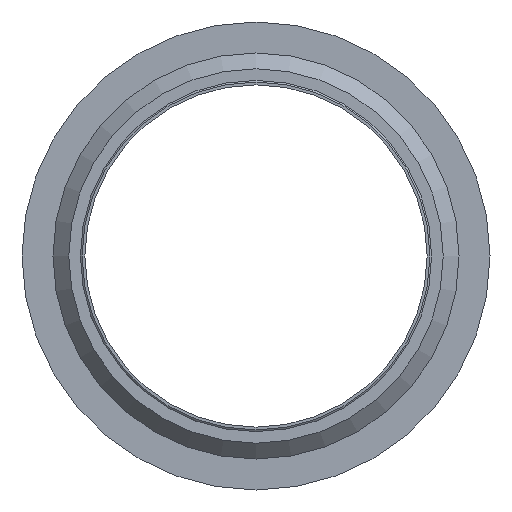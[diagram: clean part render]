
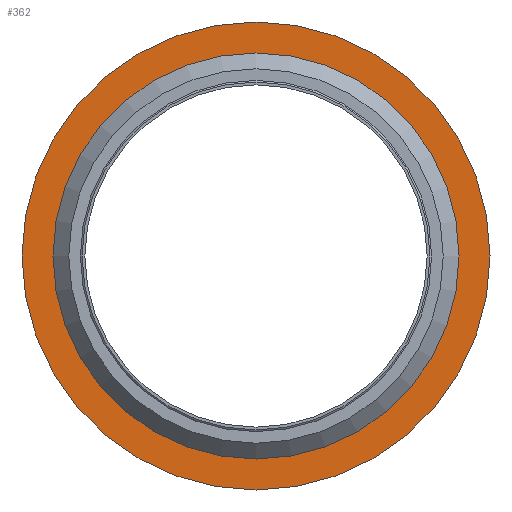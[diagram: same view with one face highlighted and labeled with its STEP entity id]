
A CAD part, left-side view. The second image highlights one B-rep face of the part: STEP entity #362.
In plain terms, the highlighted planar face has unit normal (-1, 0, 0).
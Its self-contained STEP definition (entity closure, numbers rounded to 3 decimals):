
#27=PLANE($,#419);
#51=FACE_BOUND($,#134,.T.);
#84=FACE_OUTER_BOUND($,#133,.T.);
#133=EDGE_LOOP($,(#298));
#134=EDGE_LOOP($,(#299));
#181=CIRCLE($,#418,108.45);
#182=CIRCLE($,#420,125.);
#214=VERTEX_POINT($,#637);
#215=VERTEX_POINT($,#640);
#247=EDGE_CURVE($,#214,#214,#181,.T.);
#248=EDGE_CURVE($,#215,#215,#182,.T.);
#298=ORIENTED_EDGE($,*,*,#248,.F.);
#299=ORIENTED_EDGE($,*,*,#247,.T.);
#362=ADVANCED_FACE($,(#84,#51),#27,.T.);
#418=AXIS2_PLACEMENT_3D($,#638,#522,#523);
#419=AXIS2_PLACEMENT_3D($,#639,#524,#525);
#420=AXIS2_PLACEMENT_3D($,#641,#526,#527);
#522=DIRECTION('center_axis',(1.,0.,0.));
#523=DIRECTION('ref_axis',(0.,1.,0.));
#524=DIRECTION('center_axis',(-1.,0.,0.));
#525=DIRECTION('ref_axis',(0.,0.,1.));
#526=DIRECTION('center_axis',(1.,0.,0.));
#527=DIRECTION('ref_axis',(0.,1.,0.));
#637=CARTESIAN_POINT('',(-56.,108.45,0.));
#638=CARTESIAN_POINT('Origin',(-56.,0.,0.));
#639=CARTESIAN_POINT('Origin',(-56.,116.725,0.));
#640=CARTESIAN_POINT('',(-56.,125.,0.));
#641=CARTESIAN_POINT('Origin',(-56.,0.,0.));
